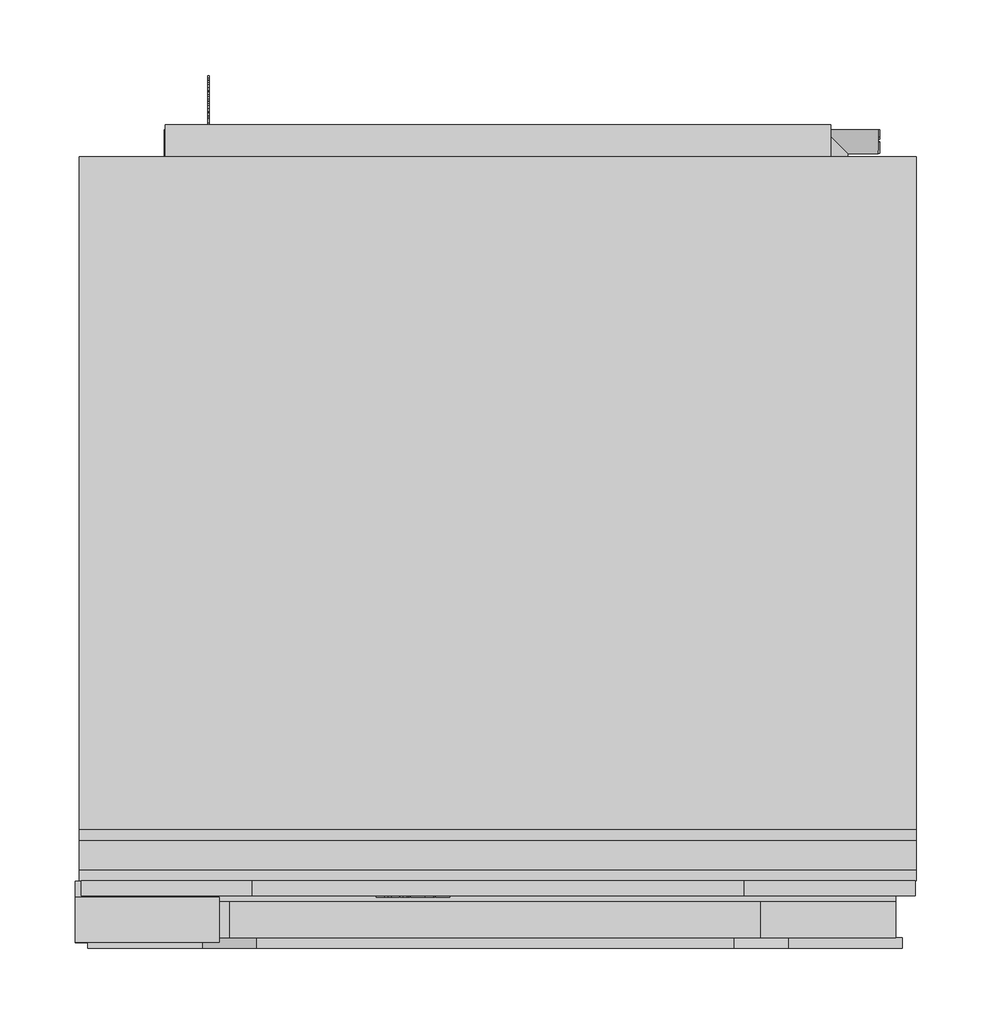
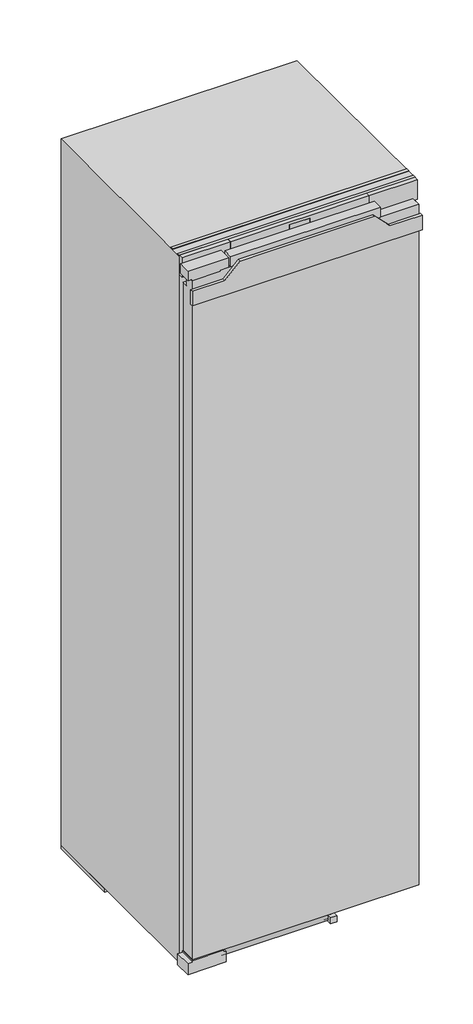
# Not in any storey: 1 proxy.
"""IFC4 building model written with IfcOpenShell, lengths in millimetres."""

import ifcopenshell
import ifcopenshell.guid

model = None  # the IFC model being written
_history = None  # IfcOwnerHistory: only IFC2X3 demands one
_inside = {}  # id of a spatial element -> (the spatial element, [elements in it])
_under = {}  # id of a project, library or spatial element -> (it, [spatial elements below it])
_declared = {}  # id of a project -> (the project, [libraries it declares])
_typed = {}  # id of a type object -> (the type object, [elements of that type])
_made_of = {}  # id of a material, layer set ... -> (it, [elements and type objects made of it])


def new_model(schema):
    """Start an empty IFC model of exactly this schema.

    Asked for "IFC4X3", IfcOpenShell would pick the latest addendum, in which some entities
    have other attributes; the version numbers below select the first issue.
    IFC2X3 requires an IfcOwnerHistory on every rooted entity: one is made here for all.
    """
    global model, _history
    if schema == "IFC4X3":
        model = ifcopenshell.file(schema_version=(4, 3, 0, 0))
    else:
        model = ifcopenshell.file(schema=schema)
    _inside.clear()
    _under.clear()
    _declared.clear()
    _typed.clear()
    _made_of.clear()
    _history = None
    if model.schema == "IFC2X3":
        org = make("IfcOrganization", Name="unknown")
        user = make(
            "IfcPersonAndOrganization",
            ThePerson=make("IfcPerson", FamilyName="unknown"),
            TheOrganization=org,
        )
        app = make(
            "IfcApplication",
            ApplicationDeveloper=org,
            Version="unknown",
            ApplicationFullName="unknown",
            ApplicationIdentifier="unknown",
        )
        _history = make(
            "IfcOwnerHistory",
            OwningUser=user,
            OwningApplication=app,
            ChangeAction="ADDED",
            CreationDate=0,
        )
    return model


def make(cls, **values):
    """One entity of the class cls with the attributes given. An attribute that is None is left unset."""
    return model.create_entity(
        cls, **{name: value for name, value in values.items() if value is not None}
    )


def rooted(cls, **values):
    """An entity with a GlobalId (a new one), such as an element, a storey or a relation."""
    return make(cls, GlobalId=ifcopenshell.guid.new(), OwnerHistory=_history, **values)


def si_unit(unit_type, name, prefix=None):
    """IfcSIUnit, for example si_unit("LENGTHUNIT", "METRE", prefix="MILLI")."""
    return make("IfcSIUnit", UnitType=unit_type, Prefix=prefix, Name=name)


def assignment(units):
    """IfcUnitAssignment: the units of a project."""
    return None if units is None else make("IfcUnitAssignment", Units=units)


def point(xyz):
    """IfcCartesianPoint."""
    return None if xyz is None else make("IfcCartesianPoint", Coordinates=xyz)


def direction(xyz):
    """IfcDirection."""
    return None if xyz is None else make("IfcDirection", DirectionRatios=xyz)


def frame(location, z_axis=None, x_axis=None):
    """IfcAxis2Placement3D, a coordinate frame: its origin and axes. An axis left out is left unset."""
    return make(
        "IfcAxis2Placement3D",
        Location=point(location),
        Axis=direction(z_axis),
        RefDirection=direction(x_axis),
    )


def frame_2d(location, x_axis=None):
    """IfcAxis2Placement2D, a coordinate frame in the plane: its origin and x axis."""
    return make(
        "IfcAxis2Placement2D", Location=point(location), RefDirection=direction(x_axis)
    )


def origin():
    """The frame at (0, 0, 0) with its axes left unset."""
    return frame((0.0, 0.0, 0.0))


def origin_with_axes():
    """The frame at (0, 0, 0) with the z axis (0, 0, 1) and the x axis (1, 0, 0) written out."""
    return frame((0.0, 0.0, 0.0), z_axis=(0.0, 0.0, 1.0), x_axis=(1.0, 0.0, 0.0))


def place(relative_to, where):
    """IfcLocalPlacement: puts the frame where relative to a parent placement (None: the world)."""
    return make(
        "IfcLocalPlacement", PlacementRelTo=relative_to, RelativePlacement=where
    )


def context(
    kind, dimensions, precision=None, world=None, true_north=None, identifier=None
):
    """IfcGeometricRepresentationContext, for example the 3D "Model" context."""
    return make(
        "IfcGeometricRepresentationContext",
        ContextIdentifier=identifier,
        ContextType=kind,
        CoordinateSpaceDimension=dimensions,
        Precision=precision,
        WorldCoordinateSystem=world,
        TrueNorth=true_north,
    )


def project(units=None, contexts=None):
    """IfcProject with its units and contexts."""
    return rooted(
        "IfcProject",
        Name="project",
        RepresentationContexts=contexts,
        UnitsInContext=assignment(units),
    )


def spatial(cls, under=None, at=None, **own):
    """A site, building, storey or space (cls), placed at a placement, below another one or the project."""
    s = rooted(cls, ObjectPlacement=at, **own)
    if under is not None:
        _under.setdefault(under.id(), (under, []))[1].append(s)
    return s


def polyline(points):
    """IfcPolyline through the points."""
    return make("IfcPolyline", Points=[point(p) for p in points])


def circle_curve(where, radius):
    """IfcCircle in the frame where."""
    return make("IfcCircle", Position=where, Radius=radius)


def ellipse_curve(where, semi_axis1, semi_axis2):
    """IfcEllipse in the frame where."""
    return make(
        "IfcEllipse", Position=where, SemiAxis1=semi_axis1, SemiAxis2=semi_axis2
    )


def trimmed(basis, trim1, trim2, sense, master):
    """IfcTrimmedCurve: the piece of a basis curve between two trims."""
    return make(
        "IfcTrimmedCurve",
        BasisCurve=basis,
        Trim1=trim1,
        Trim2=trim2,
        SenseAgreement=sense,
        MasterRepresentation=master,
    )


def segment(curve, same_sense, transition):
    """IfcCompositeCurveSegment."""
    return make(
        "IfcCompositeCurveSegment",
        Transition=transition,
        SameSense=same_sense,
        ParentCurve=curve,
    )


def composite_curve(segments, self_intersect=None):
    """IfcCompositeCurve: segments joined end to end."""
    return make("IfcCompositeCurve", Segments=segments, SelfIntersect=self_intersect)


def outline(outer, holes=None, kind="AREA"):
    """IfcArbitraryClosedProfileDef: a profile drawn as a closed curve; with holes, ...WithVoids."""
    if holes is None:
        return make("IfcArbitraryClosedProfileDef", ProfileType=kind, OuterCurve=outer)
    return make(
        "IfcArbitraryProfileDefWithVoids",
        ProfileType=kind,
        OuterCurve=outer,
        InnerCurves=holes,
    )


def extrude(swept, where, along, depth):
    """IfcExtrudedAreaSolid: the profile swept, set in the frame where, extruded along a direction by depth."""
    return make(
        "IfcExtrudedAreaSolid",
        SweptArea=swept,
        Position=where,
        ExtrudedDirection=direction(along),
        Depth=depth,
    )


def faces_of(points, faces, orient=None, outer=None):
    """IfcFace entities. A face is a list of loops; a loop is a list of indices into points, from 0.

    orient and outer hold one flag for each loop. By default every Orientation is true, the
    first loop of a face is its IfcFaceOuterBound and the others are IfcFaceBound.
    """
    made = []
    for i, loops in enumerate(faces):
        bounds = []
        for j, loop in enumerate(loops):
            is_outer = j == 0 if outer is None else outer[i][j]
            bounds.append(
                make(
                    "IfcFaceOuterBound" if is_outer else "IfcFaceBound",
                    Bound=make("IfcPolyLoop", Polygon=[points[k] for k in loop]),
                    Orientation=True if orient is None else orient[i][j],
                )
            )
        made.append(make("IfcFace", Bounds=bounds))
    return made


def faceted_brep(points, faces, orient=None, outer=None, voids=None):
    """IfcFacetedBrep: a solid bounded by flat faces; with voids (closed shells), ...WithVoids."""
    shared = [point(p) for p in points]
    hull = make("IfcClosedShell", CfsFaces=faces_of(shared, faces, orient, outer))
    if voids is None:
        return make("IfcFacetedBrep", Outer=hull)
    return make(
        "IfcFacetedBrepWithVoids",
        Outer=hull,
        Voids=[
            make(cls, CfsFaces=faces_of(shared, fs, o, b)) for cls, fs, o, b in voids
        ],
    )


def shape(context_of_items, identifier, shape_type, items):
    """IfcShapeRepresentation: the items that make up one representation, for example the "Body"."""
    return make(
        "IfcShapeRepresentation",
        ContextOfItems=context_of_items,
        RepresentationIdentifier=identifier,
        RepresentationType=shape_type,
        Items=items,
    )


def source(mapping_origin, context_of_items, identifier, shape_type, items):
    """IfcRepresentationMap: a shape defined once, which mapped items show again and again."""
    return make(
        "IfcRepresentationMap",
        MappingOrigin=mapping_origin,
        MappedRepresentation=shape(context_of_items, identifier, shape_type, items),
    )


def transform(
    local_origin,
    x_axis=None,
    y_axis=None,
    z_axis=None,
    scale=None,
    scale2=None,
    scale3=None,
    uniform=True,
):
    """IfcCartesianTransformationOperator3D, or its non-uniform kind. x_axis, y_axis, z_axis: its Axis1, 2, 3."""
    if uniform:
        return make(
            "IfcCartesianTransformationOperator3D",
            Axis1=direction(x_axis),
            Axis2=direction(y_axis),
            LocalOrigin=point(local_origin),
            Scale=scale,
            Axis3=direction(z_axis),
        )
    return make(
        "IfcCartesianTransformationOperator3DnonUniform",
        Axis1=direction(x_axis),
        Axis2=direction(y_axis),
        LocalOrigin=point(local_origin),
        Scale=scale,
        Axis3=direction(z_axis),
        Scale2=scale2,
        Scale3=scale3,
    )


def mapped(mapping_source, mapping_target):
    """IfcMappedItem: shows the shape of a source again, moved by a transform."""
    return make(
        "IfcMappedItem", MappingSource=mapping_source, MappingTarget=mapping_target
    )


def made_of(thing, what):
    """Note that an element or type object is made of a material, layer set ...; save() writes the relation."""
    if what is not None:
        _made_of.setdefault(what.id(), (what, []))[1].append(thing)
    return thing


def element(
    cls,
    number,
    at=None,
    inside=None,
    cuts=None,
    type_object=None,
    material=None,
    context=None,
    identifier="Body",
    shape_type=None,
    held_by="IfcProductDefinitionShape",
    body=None,
    shapes=None,
    **own,
):
    """One element of the class cls, such as IfcWall. Its Tag is "e" and its number.

    at: its placement. inside: the storey or other place that contains it. cuts: it is an
    opening in that element (IfcRelVoidsElement). A single representation is given by context,
    identifier, shape_type and body (its items); several are given by shapes. held_by: the class
    of the entity that holds the representations. save() writes the other relations.
    """
    e = rooted(cls, Tag="e%d" % number, ObjectPlacement=at, **own)
    if body is not None:
        shapes = [shape(context, identifier, shape_type, body)]
    if shapes is not None:
        e.Representation = make(held_by, Representations=shapes)
    if inside is not None:
        _inside.setdefault(inside.id(), (inside, []))[1].append(e)
    if cuts is not None:
        rooted(
            "IfcRelVoidsElement", RelatingBuildingElement=cuts, RelatedOpeningElement=e
        )
    if type_object is not None:
        _typed.setdefault(type_object.id(), (type_object, []))[1].append(e)
    return made_of(e, material)


def aggregate(whole, parts):
    """IfcRelAggregates: a whole, such as a stair, and the parts it consists of."""
    return rooted("IfcRelAggregates", RelatingObject=whole, RelatedObjects=parts)


def save(model, path):
    """Write the relations noted so far, then the file.

    IfcRelAggregates (storeys below a building ...), IfcRelContainedInSpatialStructure (elements
    in a storey), IfcRelDefinesByType, IfcRelAssociatesMaterial and IfcRelDeclares: one each for
    every whole, place, type object, material and project.
    """
    for whole, parts in _under.values():
        aggregate(whole, parts)
    for where, things in _inside.values():
        rooted(
            "IfcRelContainedInSpatialStructure",
            RelatedElements=things,
            RelatingStructure=where,
        )
    for kind, things in _typed.values():
        rooted("IfcRelDefinesByType", RelatedObjects=things, RelatingType=kind)
    for what, things in _made_of.values():
        rooted("IfcRelAssociatesMaterial", RelatedObjects=things, RelatingMaterial=what)
    for by, libraries in _declared.values():
        rooted("IfcRelDeclares", RelatingContext=by, RelatedDefinitions=libraries)
    model.write(path)


def plane_surface(at):
    """IfcPlane: the flat surface through the origin of the frame at, square to its z axis."""
    return make("IfcPlane", Position=at)


def cylinder_surface(at, radius):
    """IfcCylindricalSurface: all points at the distance radius from the z axis of the frame at."""
    return make("IfcCylindricalSurface", Position=at, Radius=radius)


def revolved_surface(curve, axis_point, axis_direction):
    """IfcSurfaceOfRevolution: the curve turned about the line through axis_point along axis_direction."""
    return make(
        "IfcSurfaceOfRevolution",
        SweptCurve=make("IfcArbitraryOpenProfileDef", ProfileType="CURVE", Curve=curve),
        AxisPosition=make("IfcAxis1Placement", Location=point(axis_point), Axis=direction(axis_direction)),
    )


def extruded_surface(curve, direction_of_extrusion, depth):
    """IfcSurfaceOfLinearExtrusion: the curve pushed along a direction by depth."""
    return make(
        "IfcSurfaceOfLinearExtrusion",
        SweptCurve=make("IfcArbitraryOpenProfileDef", ProfileType="CURVE", Curve=curve),
        ExtrudedDirection=direction(direction_of_extrusion),
        Depth=depth,
    )


def advanced_brep(points, edges, surfaces, faces):
    """IfcAdvancedBrep: a solid bounded by faces that lie on surfaces and meet in shared edges.

    An edge is (start, end): straight between two places in points (the first is 0);
    or (start, end, curve); or (start, end, curve, False) where it runs against its curve.
    A face is (place in surfaces, loops), or (place, loops, False) where it looks against
    its surface's normal. A loop lists edges by number (the first is 1), with a minus sign
    where the edge is run from its end to its start. The first loop is the outer one.
    """
    corners = [point(p) for p in points]
    vertices = [make("IfcVertexPoint", VertexGeometry=c) for c in corners]
    made = []
    for start, end, *more in edges:
        made.append(
            make(
                "IfcEdgeCurve",
                EdgeStart=vertices[start],
                EdgeEnd=vertices[end],
                EdgeGeometry=more[0] if more else make("IfcPolyline", Points=[corners[start], corners[end]]),
                SameSense=more[1] if len(more) > 1 else True,
            )
        )
    hull = []
    for where, loops, *sense in faces:
        bounds = []
        for j, loop in enumerate(loops):
            ring = [make("IfcOrientedEdge", EdgeElement=made[abs(k) - 1], Orientation=k > 0) for k in loop]
            bounds.append(
                make(
                    "IfcFaceOuterBound" if j == 0 else "IfcFaceBound",
                    Bound=make("IfcEdgeLoop", EdgeList=ring),
                    Orientation=True,
                )
            )
        hull.append(make("IfcAdvancedFace", Bounds=bounds, FaceSurface=surfaces[where], SameSense=sense[0] if sense else True))
    return make("IfcAdvancedBrep", Outer=make("IfcClosedShell", CfsFaces=hull))


def specialty_equipment_5714de7c(model_context):
    return source(origin(), model_context, "Body", "SolidModel", [
        advanced_brep(
        [(-37.4941578, 34.0, 1743.708), (-37.4941578, 34.0, 1744.516), (-32.1421578, 34.0, 1744.516), (-41.4541578, 34.0, 1744.516), (-39.2541578, 34.0, 1741.812), (-32.2781578, 34.0, 1743.708), (-34.6941578, 34.0, 1743.708), (-36.5981578, 34.0, 1742.812), (-37.4941578, 34.0, 1745.54), (-37.4941578, 34.0, 1746.412), (-36.1261578, 34.0, 1746.412), (-36.1261578, 34.0, 1745.54), (-37.4941578, 35.0, 1743.708), (-36.5981578, 35.0, 1742.812), (-34.6941578, 35.0, 1743.708), (-32.2781578, 35.0, 1743.708), (-39.2541578, 35.0, 1741.812), (-41.4541578, 35.0, 1744.516), (-32.1421578, 35.0, 1744.516), (-37.4941578, 35.0, 1744.516), (-37.4941578, 35.0, 1745.54), (-36.1261578, 35.0, 1745.54), (-36.1261578, 35.0, 1746.412), (-37.4941578, 35.0, 1746.412)],
        [
            (0, 1),
            (1, 2),
            (2, 3, ellipse_curve(frame((-36.7981578, 34.0, 1744.516), z_axis=(0.0, -1.0, 0.0), x_axis=(-1.0, 0.0, 0.0)), 4.656, 3.848)),
            (3, 4, circle_curve(frame((-38.3581141, 34.0, 1744.788), z_axis=(0.0, -1.0, 0.0), x_axis=(0.0, 0.0, -1.0)), 3.1079688)),
            (4, 5, circle_curve(frame((-36.8913642, 34.0, 1746.9), z_axis=(0.0, -1.0, 0.0), x_axis=(0.0, 0.0, -1.0)), 5.6098607)),
            (5, 6),
            (6, 7, circle_curve(frame((-36.207099, 34.0, 1744.452), z_axis=(0.0, 1.0, 0.0), x_axis=(0.0, 0.0, -1.0)), 1.6859795)),
            (7, 0, circle_curve(frame((-36.5981578, 34.0, 1743.708), z_axis=(0.0, 1.0, 0.0), x_axis=(0.0, 0.0, -1.0)), 0.896)),
            (8, 9),
            (9, 10, circle_curve(frame((-36.8101578, 34.0, 1746.412), z_axis=(0.0, 1.0, 0.0), x_axis=(0.0, 0.0, -1.0)), 0.684)),
            (10, 11),
            (11, 8),
            (12, 13, circle_curve(frame((-36.5981578, 35.0, 1743.708), z_axis=(0.0, -1.0, 0.0), x_axis=(0.0, 0.0, -1.0)), 0.896)),
            (13, 14, circle_curve(frame((-36.207099, 35.0, 1744.452), z_axis=(0.0, -1.0, 0.0), x_axis=(0.0, 0.0, -1.0)), 1.6859795)),
            (14, 15),
            (15, 16, circle_curve(frame((-36.8913642, 35.0, 1746.9), z_axis=(0.0, 1.0, 0.0), x_axis=(0.0, 0.0, -1.0)), 5.6098607)),
            (16, 17, circle_curve(frame((-38.3581141, 35.0, 1744.788), z_axis=(0.0, 1.0, 0.0), x_axis=(0.0, 0.0, -1.0)), 3.1079688)),
            (17, 18, ellipse_curve(frame((-36.7981578, 35.0, 1744.516), z_axis=(0.0, 1.0, 0.0), x_axis=(-1.0, 0.0, 0.0)), 4.656, 3.848)),
            (18, 19),
            (19, 12),
            (20, 21),
            (21, 22),
            (22, 23, circle_curve(frame((-36.8101578, 35.0, 1746.412), z_axis=(0.0, -1.0, 0.0), x_axis=(0.0, 0.0, -1.0)), 0.684)),
            (23, 20),
            (0, 12),
            (19, 1),
            (18, 2),
            (5, 15),
            (14, 6),
            (17, 3),
            (13, 7),
            (16, 4),
            (8, 20),
            (23, 9),
            (22, 10),
            (21, 11),
        ],
        [
            plane_surface(frame((-37.4941578, 34.0, 1744.516), z_axis=(0.0, -1.0, 0.0), x_axis=(0.0, 0.0, 1.0))),
            plane_surface(frame((-37.4941578, 35.0, 1744.516), z_axis=(0.0, 1.0, 0.0), x_axis=(0.0, 0.0, -1.0))),
            plane_surface(frame((-37.4941578, 34.0, 1743.708), z_axis=(1.0, 0.0, 0.0), x_axis=(0.0, 1.0, 0.0))),
            plane_surface(frame((-37.4941578, 34.0, 1744.516), z_axis=(0.0, 0.0, -1.0), x_axis=(0.0, 1.0, 0.0))),
            plane_surface(frame((-32.2781578, 34.0, 1743.708), z_axis=(0.0, 0.0, 1.0), x_axis=(0.0, 1.0, 0.0))),
            extruded_surface(trimmed(ellipse_curve(frame((-36.7981578, 36.0, 1744.516), z_axis=(0.0, -1.0, 0.0), x_axis=(-1.0, 0.0, 0.0)), 4.656, 3.848), [point((-32.1421578, 36.0, 1744.516))], [point((-41.4541578, 36.0, 1744.516))], True, "CARTESIAN"), (0.0, -1.0, 0.0), 1.0),
            revolved_surface(polyline([(-36.207099, 35.0, 1742.7660205), (-36.207099, 34.0, 1742.7660205)]), (-36.207099, 35.0, 1744.452), (0.0, 1.0, 0.0)),
            revolved_surface(polyline([(-36.5981578, 35.0, 1742.8120000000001), (-36.5981578, 34.0, 1742.8120000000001)]), (-36.5981578, 35.0, 1743.708), (0.0, 1.0, 0.0)),
            cylinder_surface(frame((-38.3581141, 35.0, 1744.788), z_axis=(0.0, -1.0, 0.0), x_axis=(0.0, 0.0, -1.0)), 3.1079688),
            cylinder_surface(frame((-36.8913642, 35.0, 1746.9), z_axis=(0.0, -1.0, 0.0), x_axis=(0.0, 0.0, -1.0)), 5.6098607),
            plane_surface(frame((-37.4941578, 34.0, 1745.54), z_axis=(1.0, 0.0, 0.0), x_axis=(0.0, 1.0, 0.0))),
            revolved_surface(polyline([(-36.8101578, 35.0, 1745.728), (-36.8101578, 34.0, 1745.728)]), (-36.8101578, 35.0, 1746.412), (0.0, 1.0, 0.0)),
            plane_surface(frame((-36.1261578, 34.0, 1746.412), z_axis=(-1.0, 0.0, 0.0), x_axis=(0.0, 1.0, 0.0))),
            plane_surface(frame((-36.1261578, 34.0, 1745.54), z_axis=(0.0, 0.0, 1.0), x_axis=(0.0, 1.0, 0.0))),
        ],
        [
            (0, [[1, 2, 3, 4, 5, 6, 7, 8], [9, 10, 11, 12]]),
            (1, [[13, 14, 15, 16, 17, 18, 19, 20], [21, 22, 23, 24]]),
            (2, [[-1, 25, -20, 26]]),
            (3, [[-2, -26, -19, 27]]),
            (4, [[-6, 28, -15, 29]]),
            (5, [[-3, -27, -18, 30]]),
            (6, [[-7, -29, -14, 31]]),
            (7, [[-8, -31, -13, -25]]),
            (8, [[-4, -30, -17, 32]]),
            (9, [[-5, -32, -16, -28]]),
            (10, [[-9, 33, -24, 34]]),
            (11, [[-10, -34, -23, 35]]),
            (12, [[-11, -35, -22, 36]]),
            (13, [[-12, -36, -21, -33]]),
        ],
    ),
        advanced_brep(
        [(-54.1901578, 34.0, 1743.708), (-54.1901578, 34.0, 1744.516), (-48.8381578, 34.0, 1744.516), (-58.1501578, 34.0, 1744.516), (-55.9501578, 34.0, 1741.812), (-48.9741578, 34.0, 1743.708), (-51.3901578, 34.0, 1743.708), (-53.2941578, 34.0, 1742.812), (-54.1901578, 34.0, 1745.54), (-54.1901578, 34.0, 1746.412), (-52.8221578, 34.0, 1746.412), (-52.8221578, 34.0, 1745.54), (-54.1901578, 35.0, 1743.708), (-53.2941578, 35.0, 1742.812), (-51.3901578, 35.0, 1743.708), (-48.9741578, 35.0, 1743.708), (-55.9501578, 35.0, 1741.812), (-58.1501578, 35.0, 1744.516), (-48.8381578, 35.0, 1744.516), (-54.1901578, 35.0, 1744.516), (-54.1901578, 35.0, 1745.54), (-52.8221578, 35.0, 1745.54), (-52.8221578, 35.0, 1746.412), (-54.1901578, 35.0, 1746.412)],
        [
            (0, 1),
            (1, 2),
            (2, 3, ellipse_curve(frame((-53.4941578, 34.0, 1744.516), z_axis=(0.0, -1.0, 0.0), x_axis=(-1.0, 0.0, 0.0)), 4.656, 3.848)),
            (3, 4, circle_curve(frame((-55.0541141, 34.0, 1744.788), z_axis=(0.0, -1.0, 0.0), x_axis=(0.0, 0.0, -1.0)), 3.1079688)),
            (4, 5, circle_curve(frame((-53.5873642, 34.0, 1746.9), z_axis=(0.0, -1.0, 0.0), x_axis=(0.0, 0.0, -1.0)), 5.6098607)),
            (5, 6),
            (6, 7, circle_curve(frame((-52.903099, 34.0, 1744.452), z_axis=(0.0, 1.0, 0.0), x_axis=(0.0, 0.0, -1.0)), 1.6859795)),
            (7, 0, circle_curve(frame((-53.2941578, 34.0, 1743.708), z_axis=(0.0, 1.0, 0.0), x_axis=(0.0, 0.0, -1.0)), 0.896)),
            (8, 9),
            (9, 10, circle_curve(frame((-53.5061578, 34.0, 1746.412), z_axis=(0.0, 1.0, 0.0), x_axis=(0.0, 0.0, -1.0)), 0.684)),
            (10, 11),
            (11, 8),
            (12, 13, circle_curve(frame((-53.2941578, 35.0, 1743.708), z_axis=(0.0, -1.0, 0.0), x_axis=(0.0, 0.0, -1.0)), 0.896)),
            (13, 14, circle_curve(frame((-52.903099, 35.0, 1744.452), z_axis=(0.0, -1.0, 0.0), x_axis=(0.0, 0.0, -1.0)), 1.6859795)),
            (14, 15),
            (15, 16, circle_curve(frame((-53.5873642, 35.0, 1746.9), z_axis=(0.0, 1.0, 0.0), x_axis=(0.0, 0.0, -1.0)), 5.6098607)),
            (16, 17, circle_curve(frame((-55.0541141, 35.0, 1744.788), z_axis=(0.0, 1.0, 0.0), x_axis=(0.0, 0.0, -1.0)), 3.1079688)),
            (17, 18, ellipse_curve(frame((-53.4941578, 35.0, 1744.516), z_axis=(0.0, 1.0, 0.0), x_axis=(-1.0, 0.0, 0.0)), 4.656, 3.848)),
            (18, 19),
            (19, 12),
            (20, 21),
            (21, 22),
            (22, 23, circle_curve(frame((-53.5061578, 35.0, 1746.412), z_axis=(0.0, -1.0, 0.0), x_axis=(0.0, 0.0, -1.0)), 0.684)),
            (23, 20),
            (0, 12),
            (19, 1),
            (18, 2),
            (5, 15),
            (14, 6),
            (17, 3),
            (13, 7),
            (16, 4),
            (8, 20),
            (23, 9),
            (22, 10),
            (21, 11),
        ],
        [
            plane_surface(frame((-54.1901578, 34.0, 1744.516), z_axis=(0.0, -1.0, 0.0), x_axis=(0.0, 0.0, 1.0))),
            plane_surface(frame((-54.1901578, 35.0, 1744.516), z_axis=(0.0, 1.0, 0.0), x_axis=(0.0, 0.0, -1.0))),
            plane_surface(frame((-54.1901578, 34.0, 1743.708), z_axis=(1.0, 0.0, 0.0), x_axis=(0.0, 1.0, 0.0))),
            plane_surface(frame((-54.1901578, 34.0, 1744.516), z_axis=(0.0, 0.0, -1.0), x_axis=(0.0, 1.0, 0.0))),
            plane_surface(frame((-48.9741578, 34.0, 1743.708), z_axis=(0.0, 0.0, 1.0), x_axis=(0.0, 1.0, 0.0))),
            extruded_surface(trimmed(ellipse_curve(frame((-53.4941578, 36.0, 1744.516), z_axis=(0.0, -1.0, 0.0), x_axis=(-1.0, 0.0, 0.0)), 4.656, 3.848), [point((-48.8381578, 36.0, 1744.516))], [point((-58.1501578, 36.0, 1744.516))], True, "CARTESIAN"), (0.0, -1.0, 0.0), 1.0),
            revolved_surface(polyline([(-52.903099, 35.0, 1742.7660205), (-52.903099, 34.0, 1742.7660205)]), (-52.903099, 35.0, 1744.452), (0.0, 1.0, 0.0)),
            revolved_surface(polyline([(-53.2941578, 35.0, 1742.8120000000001), (-53.2941578, 34.0, 1742.8120000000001)]), (-53.2941578, 35.0, 1743.708), (0.0, 1.0, 0.0)),
            cylinder_surface(frame((-55.0541141, 35.0, 1744.788), z_axis=(0.0, -1.0, 0.0), x_axis=(0.0, 0.0, -1.0)), 3.1079688),
            cylinder_surface(frame((-53.5873642, 35.0, 1746.9), z_axis=(0.0, -1.0, 0.0), x_axis=(0.0, 0.0, -1.0)), 5.6098607),
            plane_surface(frame((-54.1901578, 34.0, 1745.54), z_axis=(1.0, 0.0, 0.0), x_axis=(0.0, 1.0, 0.0))),
            revolved_surface(polyline([(-53.5061578, 35.0, 1745.728), (-53.5061578, 34.0, 1745.728)]), (-53.5061578, 35.0, 1746.412), (0.0, 1.0, 0.0)),
            plane_surface(frame((-52.8221578, 34.0, 1746.412), z_axis=(-1.0, 0.0, 0.0), x_axis=(0.0, 1.0, 0.0))),
            plane_surface(frame((-52.8221578, 34.0, 1745.54), z_axis=(0.0, 0.0, 1.0), x_axis=(0.0, 1.0, 0.0))),
        ],
        [
            (0, [[1, 2, 3, 4, 5, 6, 7, 8], [9, 10, 11, 12]]),
            (1, [[13, 14, 15, 16, 17, 18, 19, 20], [21, 22, 23, 24]]),
            (2, [[-1, 25, -20, 26]]),
            (3, [[-2, -26, -19, 27]]),
            (4, [[-6, 28, -15, 29]]),
            (5, [[-3, -27, -18, 30]]),
            (6, [[-7, -29, -14, 31]]),
            (7, [[-8, -31, -13, -25]]),
            (8, [[-4, -30, -17, 32]]),
            (9, [[-5, -32, -16, -28]]),
            (10, [[-9, 33, -24, 34]]),
            (11, [[-10, -34, -23, 35]]),
            (12, [[-11, -35, -22, 36]]),
            (13, [[-12, -36, -21, -33]]),
        ],
    ),
        extrude(outline(polyline([(1749.34, -62.9341578), (1748.044, -62.3261578), (1749.308, -59.6141578), (1750.604, -60.2141578), (1749.34, -62.9341578)])), frame((0.0, 34.0, 0.0), z_axis=(0.0, 1.0, 0.0), x_axis=(0.0, 0.0, 1.0)), (0.0, 0.0, 1.0), 1.0),
        extrude(outline(polyline([(1747.868, -64.9101578), (1746.436, -64.9101578), (1746.436, -63.9581578), (1743.156, -63.9581578), (1743.156, -64.9101578), (1741.812, -64.9101578), (1741.812, -58.5981578), (1743.156, -58.5981578), (1743.156, -59.5261578), (1747.868, -59.5261578), (1747.868, -64.9101578)])), frame((0.0, 34.0, 0.0), z_axis=(0.0, 1.0, 0.0), x_axis=(0.0, 0.0, 1.0)), (0.0, 0.0, 1.0), 1.0),
        extrude(outline(polyline([(1748.508, -48.3901578), (1748.508, -47.4301578), (1743.156, -47.4301578), (1743.156, -48.3901578), (1741.812, -48.3901578), (1741.812, -41.9021578), (1743.156, -41.9021578), (1743.156, -42.8861578), (1749.812, -42.8861578), (1749.812, -48.3901578), (1748.508, -48.3901578)])), frame((0.0, 34.0, 0.0), z_axis=(0.0, 1.0, 0.0), x_axis=(0.0, 0.0, 1.0)), (0.0, 0.0, 1.0), 1.0),
        extrude(outline(polyline([(1748.508, -80.8541578), (1748.508, -79.8861578), (1743.156, -79.8861578), (1743.156, -80.8541578), (1741.812, -80.8541578), (1741.812, -77.3341578), (1743.156, -77.3341578), (1743.156, -78.2941578), (1746.5591247, -78.2941578), (1741.812, -74.7181578), (1746.6272223, -71.1261578), (1743.156, -71.1261578), (1743.156, -72.1101578), (1741.812, -72.1101578), (1741.812, -65.7261578), (1743.156, -65.7261578), (1743.156, -66.7421578), (1748.508, -66.7421578), (1748.508, -65.7261578), (1749.812, -65.7261578), (1749.812, -70.5981578), (1746.812, -72.9341578), (1749.812, -75.2781578), (1749.812, -80.8541578), (1748.508, -80.8541578)])), frame((0.0, 34.0, 0.0), z_axis=(0.0, 1.0, 0.0), x_axis=(0.0, 0.0, 1.0)), (0.0, 0.0, 1.0), 1.0),
        faceted_brep([(163.6458422, 35.0, 1770.0), (-163.3541578, 35.0, 1770.0), (-163.3541578, 35.0, 1721.0), (163.6458422, 35.0, 1721.0), (24.6458422, 35.0, 1763.0), (24.6458422, 35.0, 1727.0), (-24.3541578, 35.0, 1727.0), (-24.3541578, 35.0, 1763.0), (163.6458422, 45.0, 1770.0), (163.6458422, 45.0, 1721.0), (-163.3541578, 45.0, 1721.0), (-163.3541578, 45.0, 1770.0), (24.6458422, 36.0, 1763.0), (-24.3541578, 36.0, 1763.0), (-24.3541578, 36.0, 1727.0), (24.6458422, 36.0, 1727.0)], [[[0, 1, 2, 3], [4, 5, 6, 7]], [[8, 9, 10, 11]], [[0, 3, 9, 8]], [[3, 2, 10, 9]], [[2, 1, 11, 10]], [[1, 0, 8, 11]], [[12, 13, 14, 15]], [[12, 15, 5, 4]], [[15, 14, 6, 5]], [[14, 13, 7, 6]], [[13, 12, 4, 7]]]),
        extrude(outline(polyline([(163.6458422, 45.0), (277.6458422, 45.0), (277.6458422, 35.0), (163.6458422, 35.0), (163.6458422, 45.0)])), frame((0.0, 0.0, 1721.0), z_axis=(0.0, 0.0, 1.0), x_axis=(1.0, 0.0, 0.0)), (0.0, 0.0, 1.0), 49.0),
        extrude(outline(polyline([(-277.3541578, 45.0), (-163.3541578, 45.0), (-163.3541578, 35.0), (-277.3541578, 35.0), (-277.3541578, 45.0)])), frame((0.0, 0.0, 1721.0), z_axis=(0.0, 0.0, 1.0), x_axis=(1.0, 0.0, 0.0)), (0.0, 0.0, 1.0), 49.0),
        extrude(outline(polyline([(-24.3541578, 36.0), (24.6458422, 36.0), (24.6458422, 35.0), (-24.3541578, 35.0), (-24.3541578, 36.0)])), frame((0.0, 0.0, 1727.0), z_axis=(0.0, 0.0, 1.0), x_axis=(1.0, 0.0, 0.0)), (0.0, 0.0, 1.0), 36.0),
        extrude(outline(polyline([(1669.8, 269.1194317), (1705.8, 269.1194317), (1705.8, 193.1194317), (1741.8, 157.1194317), (1741.8, -160.8805683), (1705.8, -196.8805683), (1705.8, -272.8805683), (1669.8, -272.8805683), (1669.8, 269.1194317)])), frame((0.0, 0.0, 0.0), z_axis=(0.0, 1.0, 0.0), x_axis=(0.0, 0.0, 1.0)), (0.0, 0.0, 1.0), 7.0),
        extrude(outline(polyline([(57.1194317, 42.0), (72.1194317, 42.0), (72.1194317, 8.0), (57.1194317, 8.0), (57.1194317, 42.0)])), frame((0.0, 0.0, 9.8), z_axis=(0.0, 0.0, 1.0), x_axis=(1.0, 0.0, 0.0)), (0.0, 0.0, 1.0), 15.0),
        extrude(outline(composite_curve([segment(trimmed(circle_curve(frame_2d((63.6194317, 25.0)), 6.5), [point((70.1194317, 25.0))], [point((57.1194317, 25.0))], False, "CARTESIAN"), True, "CONTINUOUS"), segment(trimmed(circle_curve(frame_2d((63.6194317, 25.0)), 6.5), [point((57.1194317, 25.0))], [point((70.1194317, 25.0))], False, "CARTESIAN"), True, "CONTINUOUS")], self_intersect=False)), frame((0.0, 0.0, 24.8), z_axis=(0.0, 0.0, 1.0), x_axis=(1.0, 0.0, 0.0)), (0.0, 0.0, 1.0), 11.0),
        extrude(outline(polyline([(174.6194317, 7.0), (-178.3805683, 7.0), (-178.3805683, 31.0), (174.6194317, 31.0), (174.6194317, 7.0)])), frame((0.0, 0.0, 1729.8), z_axis=(0.0, 0.0, 1.0), x_axis=(1.0, 0.0, 0.0)), (0.0, 0.0, 1.0), 25.0),
        extrude(outline(polyline([(7.0, 35.8), (7.0, 1729.8), (31.0, 1729.8), (31.0, 1699.8), (45.0, 1699.8), (45.0, 35.8), (7.0, 35.8)])), frame((-268.3805683, 0.0, 0.0), z_axis=(1.0, 0.0, 0.0), x_axis=(0.0, 1.0, 0.0)), (0.0, 0.0, 1.0), 533.0),
        extrude(outline(polyline([(35.8, -197.3805683), (35.8, -270.3805683), (31.8, -270.3805683), (31.8, -281.3805683), (4.8, -281.3805683), (4.8, -191.3805683), (31.8, -191.3805683), (31.8, -197.3805683), (35.8, -197.3805683)])), frame((0.0, 4.0, 0.0), z_axis=(0.0, 1.0, 0.0), x_axis=(0.0, 0.0, 1.0)), (0.0, 0.0, 1.0), 41.0),
        extrude(outline(polyline([(1756.8, -281.3805683), (1732.8, -281.3805683), (1732.8, -271.3805683), (1729.8, -271.3805683), (1729.8, -205.3805683), (1732.8, -205.3805683), (1732.8, -185.3805683), (1756.8, -185.3805683), (1756.8, -281.3805683)])), frame((0.0, 4.0, 0.0), z_axis=(0.0, 1.0, 0.0), x_axis=(0.0, 0.0, 1.0)), (0.0, 0.0, 1.0), 30.0),
        extrude(outline(composite_curve([segment(trimmed(circle_curve(frame_2d((25.0, 18.8)), 6.0), [point((25.0, 24.8))], [point((25.0, 12.8))], False, "CARTESIAN"), True, "CONTINUOUS"), segment(trimmed(circle_curve(frame_2d((25.0, 18.8)), 6.0), [point((25.0, 12.8))], [point((25.0, 24.8))], False, "CARTESIAN"), True, "CONTINUOUS")], self_intersect=False)), frame((41.1194317, 0.0, 0.0), z_axis=(1.0, 0.0, 0.0), x_axis=(0.0, 1.0, 0.0)), (0.0, 0.0, 1.0), 16.0),
        extrude(outline(composite_curve([segment(trimmed(circle_curve(frame_2d((25.0, 18.8)), 9.0), [point((25.0, 27.8))], [point((25.0, 9.8))], False, "CARTESIAN"), True, "CONTINUOUS"), segment(trimmed(circle_curve(frame_2d((25.0, 18.8)), 9.0), [point((25.0, 9.8))], [point((25.0, 27.8))], False, "CARTESIAN"), True, "CONTINUOUS")], self_intersect=False)), frame((-191.3805683, 0.0, 0.0), z_axis=(1.0, 0.0, 0.0), x_axis=(0.0, 1.0, 0.0)), (0.0, 0.0, 1.0), 248.5),
        extrude(outline(polyline([(208.5, 487.0), (208.5, 309.0), (-208.5, 309.0), (-208.5, 487.0), (208.5, 487.0)])), frame((0.0, 0.0, 80.0), z_axis=(0.0, 0.0, 1.0), x_axis=(1.0, 0.0, 0.0)), (0.0, 0.0, 1.0), 217.0),
        extrude(outline(polyline([(23.0, -221.5), (23.0, 221.5), (131.0534782, 221.5), (131.0534782, 212.5555072), (151.6704825, 212.5555072), (151.6704825, 221.5), (1712.0, 221.5), (1712.0, -221.5), (62.0, -221.5), (62.0, -180.6240332), (39.0801416, -180.6240332), (39.0801416, -221.5), (23.0, -221.5)])), frame((0.0, 527.0, 0.0), z_axis=(0.0, 1.0, 0.0), x_axis=(0.0, 0.0, 1.0)), (0.0, 0.0, 1.0), 21.28),
        extrude(outline(polyline([(208.5, 87.0), (-208.5, 87.0), (-208.5, 487.0), (208.5, 487.0), (208.5, 87.0)])), frame((0.0, 0.0, 1587.0), z_axis=(0.0, 0.0, 1.0), x_axis=(1.0, 0.0, 0.0)), (0.0, 0.0, 1.0), 100.0),
        faceted_brep([(278.5, 527.0, 1768.0), (-278.5, 527.0, 1768.0), (-278.5, 45.0, 1768.0), (278.5, 45.0, 1768.0), (278.5, 527.0, 9.0), (278.5, 45.0, 9.0), (-278.5, 45.0, 9.0), (-278.5, 527.0, 9.0), (-208.5, 45.0, 1687.0), (208.5, 45.0, 1687.0), (208.5, 45.0, 80.0), (-208.5, 45.0, 80.0), (208.5, 487.0, 1687.0), (-208.5, 487.0, 1687.0), (-208.5, 487.0, 80.0), (208.5, 487.0, 80.0)], [[[0, 1, 2, 3]], [[4, 5, 6, 7]], [[1, 0, 4, 7]], [[2, 1, 7, 6]], [[3, 2, 6, 5], [8, 9, 10, 11]], [[0, 3, 5, 4]], [[12, 13, 14, 15]], [[13, 12, 9, 8]], [[14, 13, 8, 11]], [[15, 14, 11, 10]], [[12, 15, 10, 9]]]),
        extrude(outline(polyline([(278.5, 52.0), (278.5, 45.0), (-278.5, 45.0), (-278.5, 52.0), (278.5, 52.0)])), frame((0.0, 0.0, 1768.0), z_axis=(0.0, 0.0, 1.0), x_axis=(1.0, 0.0, 0.0)), (0.0, 0.0, 1.0), 2.0),
        extrude(outline(polyline([(278.5, 79.0), (278.5, 72.0), (-278.5, 72.0), (-278.5, 79.0), (278.5, 79.0)])), frame((0.0, 0.0, 1768.0), z_axis=(0.0, 0.0, 1.0), x_axis=(1.0, 0.0, 0.0)), (0.0, 0.0, 1.0), 2.0),
        extrude(outline(polyline([(529.6227397, 135.8394627), (529.6227397, 145.8850937), (536.843037, 145.8850937), (536.843037, 144.6293899), (530.8784436, 144.6293899), (530.8784436, 141.6470932), (536.529111, 141.6470932), (536.529111, 140.3913893), (530.8784436, 140.3913893), (530.8784436, 137.0951666), (537.0, 137.0951666), (537.0, 135.8394627), (529.6227397, 135.8394627)])), frame((253.2418947, 0.0, 0.0), z_axis=(1.0, 0.0, 0.0), x_axis=(0.0, 1.0, 0.0)), (0.0, 0.0, 1.0), 1.0),
        extrude(outline(polyline([(538.8835558, 135.8394627), (538.8835558, 145.8850937), (540.1392597, 145.8850937), (540.1392597, 137.0951666), (545.1620752, 137.0951666), (545.1620752, 135.8394627), (538.8835558, 135.8394627)])), frame((253.2418947, 0.0, 0.0), z_axis=(1.0, 0.0, 0.0), x_axis=(0.0, 1.0, 0.0)), (0.0, 0.0, 1.0), 1.0),
        advanced_brep(
        [(232.9638051, 527.0, 140.8394627), (217.0361949, 527.0, 140.8394627), (232.9638051, 529.0361949, 140.8394627), (217.0361949, 544.9638051, 140.8394627), (253.2418947, 529.0361949, 140.8394627), (253.2418947, 544.9638051, 140.8394627)],
        [
            (0, 1, circle_curve(frame((225.0, 527.0, 140.8394627), z_axis=(0.0, -1.0, 0.0), x_axis=(-1.0, 0.0, 0.0)), 7.9638051)),
            (1, 0, circle_curve(frame((225.0, 527.0, 140.8394627), z_axis=(0.0, -1.0, 0.0), x_axis=(-1.0, 0.0, 0.0)), 7.9638051)),
            (0, 2),
            (2, 3, ellipse_curve(frame((225.0, 537.0, 140.8394627), z_axis=(-0.70710678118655, -0.707106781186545, 0.0), x_axis=(0.707106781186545, -0.7071067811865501, 0.0)), 11.2625212, 7.9638051)),
            (3, 1),
            (3, 2, ellipse_curve(frame((225.0, 537.0, 140.8394627), z_axis=(-0.70710678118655, -0.707106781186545, 0.0), x_axis=(0.707106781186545, -0.7071067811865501, 0.0)), 11.2625212, 7.9638051)),
            (4, 5, circle_curve(frame((253.2418947, 537.0, 140.8394627), z_axis=(1.0, 0.0, 0.0), x_axis=(0.0, 1.0, 0.0)), 7.9638051)),
            (5, 4, circle_curve(frame((253.2418947, 537.0, 140.8394627), z_axis=(1.0, 0.0, 0.0), x_axis=(0.0, 1.0, 0.0)), 7.9638051)),
            (2, 4),
            (5, 3),
        ],
        [
            plane_surface(frame((225.0, 527.0, 2.0), z_axis=(0.0, -1.0, 0.0), x_axis=(0.0, 0.0, 1.0))),
            cylinder_surface(frame((225.0, 527.0, 140.8394627), z_axis=(0.0, -1.0, 0.0), x_axis=(-1.0, 0.0, 0.0)), 7.9638051),
            plane_surface(frame((253.2418947, 537.0, 2.0), z_axis=(1.0, 0.0, 0.0), x_axis=(0.0, 0.0, 1.0))),
            cylinder_surface(frame((225.0, 537.0, 140.8394627), z_axis=(-1.0, 0.0, 0.0), x_axis=(0.0, 1.0, 0.0)), 7.9638051),
        ],
        [
            (0, [[1, 2]]),
            (1, [[-1, 3, 4, 5]]),
            (1, [[-2, -5, 6, -3]]),
            (2, [[7, 8]]),
            (3, [[-4, 9, -8, 10]]),
            (3, [[-6, -10, -7, -9]]),
        ],
    ),
        extrude(outline(composite_curve([segment(trimmed(circle_curve(frame_2d((-226.5, 64.6852762)), 11.0852762), [point((-237.5852762, 64.6852762))], [point((-215.4147238, 64.6852762))], False, "CARTESIAN"), True, "CONTINUOUS"), segment(trimmed(circle_curve(frame_2d((-226.5, 64.6852762)), 11.0852762), [point((-215.4147238, 64.6852762))], [point((-237.5852762, 64.6852762))], False, "CARTESIAN"), True, "CONTINUOUS")], self_intersect=False)), origin_with_axes(), (0.0, 0.0, 1.0), 9.0),
        extrude(outline(composite_curve([segment(trimmed(circle_curve(frame_2d((226.5, 64.6852762)), 11.0852762), [point((215.4147238, 64.6852762))], [point((237.5852762, 64.6852762))], False, "CARTESIAN"), True, "CONTINUOUS"), segment(trimmed(circle_curve(frame_2d((226.5, 64.6852762)), 11.0852762), [point((237.5852762, 64.6852762))], [point((215.4147238, 64.6852762))], False, "CARTESIAN"), True, "CONTINUOUS")], self_intersect=False)), origin_with_axes(), (0.0, 0.0, 1.0), 9.0),
        extrude(outline(polyline([(-175.9047649, 94.122951), (-193.5137281, 345.9428573), (-168.5746269, 347.6867691), (-150.9656637, 95.8668628), (-175.9047649, 94.122951)])), frame((0.0, 0.0, 2.0), z_axis=(0.0, 0.0, 1.0), x_axis=(1.0, 0.0, 0.0)), (0.0, 0.0, 1.0), 7.0),
        extrude(outline(polyline([(175.9047649, 94.122951), (150.9656637, 95.8668628), (168.5777725, 347.7317536), (193.5168738, 345.9878417), (175.9047649, 94.122951)])), frame((0.0, 0.0, 2.0), z_axis=(0.0, 0.0, 1.0), x_axis=(1.0, 0.0, 0.0)), (0.0, 0.0, 1.0), 7.0),
        extrude(outline(polyline([(278.5, 347.71), (-278.5, 347.71), (-278.5, 527.0), (278.5, 527.0), (278.5, 347.71)])), origin_with_axes(), (0.0, 0.0, 1.0), 9.0),
        extrude(outline(polyline([(527.3594772, 46.0713582), (527.3594772, 56.1169892), (528.6151811, 56.1169892), (528.6151811, 51.1996332), (533.765529, 56.1169892), (535.5215524, 56.1169892), (531.1977127, 51.9869007), (535.6785154, 46.0713582), (534.1432212, 46.0713582), (530.3074383, 51.1383195), (528.6151811, 49.5245439), (528.6151811, 46.0713582), (527.3594772, 46.0713582)])), frame((-192.9919174, 0.0, 0.0), z_axis=(1.0, 0.0, 0.0), x_axis=(0.0, 1.0, 0.0)), (0.0, 0.0, 1.0), 1.0),
        extrude(outline(polyline([(538.41801, 46.0713582), (535.6785154, 56.1169892), (536.97346, 56.1169892), (538.5627102, 49.5147337), (539.0532196, 47.4766674), (539.5780646, 49.2792892), (541.5695324, 56.1169892), (543.4359204, 56.1169892), (544.8829229, 51.1603925), (545.9595909, 47.4766674), (546.4353849, 49.4558725), (548.0393504, 56.1169892), (549.3342951, 56.1169892), (546.5923479, 46.0713582), (545.2508049, 46.0713582), (542.8424041, 53.8214056), (542.5064052, 54.9029786), (542.1287131, 53.6006764), (539.9336838, 46.0713582), (538.41801, 46.0713582)])), frame((-192.9919174, 0.0, 0.0), z_axis=(1.0, 0.0, 0.0), x_axis=(0.0, 1.0, 0.0)), (0.0, 0.0, 1.0), 1.0),
        extrude(outline(polyline([(549.491258, 46.0713582), (552.3165918, 56.1169892), (553.4496683, 56.1169892), (550.6243346, 46.0713582), (549.491258, 46.0713582)])), frame((-192.9919174, 0.0, 0.0), z_axis=(1.0, 0.0, 0.0), x_axis=(0.0, 1.0, 0.0)), (0.0, 0.0, 1.0), 1.0),
        extrude(outline(polyline([(556.3117902, 46.0713582), (553.5722956, 56.1169892), (554.8672403, 56.1169892), (556.4564905, 49.5147337), (556.9469998, 47.4766674), (557.4718448, 49.2792892), (559.4633127, 56.1169892), (561.3297007, 56.1169892), (562.7767032, 51.1603925), (563.8533711, 47.4766674), (564.3291652, 49.4558725), (565.9331307, 56.1169892), (567.2280753, 56.1169892), (564.4861282, 46.0713582), (563.1445852, 46.0713582), (560.7361844, 53.8214056), (560.4001855, 54.9029786), (560.0224933, 53.6006764), (557.8274641, 46.0713582), (556.3117902, 46.0713582)])), frame((-192.9919174, 0.0, 0.0), z_axis=(1.0, 0.0, 0.0), x_axis=(0.0, 1.0, 0.0)), (0.0, 0.0, 1.0), 1.0),
        extrude(outline(polyline([(570.2814959, 46.0713582), (567.5420013, 56.1169892), (568.8369459, 56.1169892), (570.4261961, 49.5147337), (570.9167054, 47.4766674), (571.4415504, 49.2792892), (573.4330183, 56.1169892), (575.2994063, 56.1169892), (576.7464088, 51.1603925), (577.8230768, 47.4766674), (578.2988708, 49.4558725), (579.9028363, 56.1169892), (581.1977809, 56.1169892), (578.4558338, 46.0713582), (577.1142908, 46.0713582), (574.70589, 53.8214056), (574.3698911, 54.9029786), (573.9921989, 53.6006764), (571.7971697, 46.0713582), (570.2814959, 46.0713582)])), frame((-192.9919174, 0.0, 0.0), z_axis=(1.0, 0.0, 0.0), x_axis=(0.0, 1.0, 0.0)), (0.0, 0.0, 1.0), 1.0),
        advanced_brep(
        [(-205.9871753, 527.0, 51.0713582), (-222.004742, 527.0, 51.0713582), (-222.004742, 545.0087834, 51.0713582), (-205.9871753, 528.9912166, 51.0713582), (-192.9919174, 528.9912166, 51.0713582), (-192.9919174, 545.0087834, 51.0713582)],
        [
            (0, 1, circle_curve(frame((-213.9959587, 527.0, 51.0713582), z_axis=(0.0, -1.0, 0.0), x_axis=(-1.0, 0.0, 0.0)), 8.0087834)),
            (1, 0, circle_curve(frame((-213.9959587, 527.0, 51.0713582), z_axis=(0.0, -1.0, 0.0), x_axis=(-1.0, 0.0, 0.0)), 8.0087834)),
            (1, 2),
            (2, 3, ellipse_curve(frame((-213.9959587, 537.0, 51.0713582), z_axis=(-0.7071067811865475, -0.7071067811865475, 0.0), x_axis=(0.7071067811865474, -0.7071067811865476, 0.0)), 11.3261301, 8.0087834)),
            (3, 0),
            (3, 2, ellipse_curve(frame((-213.9959587, 537.0, 51.0713582), z_axis=(-0.7071067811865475, -0.7071067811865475, 0.0), x_axis=(0.7071067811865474, -0.7071067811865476, 0.0)), 11.3261301, 8.0087834)),
            (4, 5, circle_curve(frame((-192.9919174, 537.0, 51.0713582), z_axis=(1.0, 0.0, 0.0), x_axis=(0.0, 1.0, 0.0)), 8.0087834)),
            (5, 4, circle_curve(frame((-192.9919174, 537.0, 51.0713582), z_axis=(1.0, 0.0, 0.0), x_axis=(0.0, 1.0, 0.0)), 8.0087834)),
            (2, 5),
            (4, 3),
        ],
        [
            plane_surface(frame((-213.9959587, 527.0, 2.0), z_axis=(0.0, -1.0, 0.0), x_axis=(0.0, 0.0, 1.0))),
            cylinder_surface(frame((-213.9959587, 527.0, 51.0713582), z_axis=(0.0, -1.0, 0.0), x_axis=(-1.0, 0.0, 0.0)), 8.0087834),
            plane_surface(frame((-192.9919174, 537.0, 2.0), z_axis=(1.0, 0.0, 0.0), x_axis=(0.0, 0.0, 1.0))),
            cylinder_surface(frame((-213.9959587, 537.0, 51.0713582), z_axis=(-1.0, 0.0, 0.0), x_axis=(0.0, 1.0, 0.0)), 8.0087834),
        ],
        [
            (0, [[1, 2]]),
            (1, [[-2, 3, 4, 5]]),
            (1, [[-1, -5, 6, -3]]),
            (2, [[7, 8]]),
            (3, [[-4, 9, -7, 10]]),
            (3, [[-6, -10, -8, -9]]),
        ],
    ),
        extrude(outline(polyline([(208.5, 45.0), (-208.5, 45.0), (-208.5, 487.0), (208.5, 487.0), (208.5, 45.0)])), frame((0.0, 0.0, 467.0), z_axis=(0.0, 0.0, 1.0), x_axis=(1.0, 0.0, 0.0)), (0.0, 0.0, 1.0), 52.0),
    ])


model = new_model("IFC4")

# Units and contexts
model_context = context("Model", 3, world=origin())
ifc_project = project(units=[si_unit("LENGTHUNIT", "METRE", prefix="MILLI")], contexts=[model_context])

# Site, building
site = spatial("IfcSite", under=ifc_project)
building = spatial("IfcBuilding", under=site)

# Proxy
placement = place(None, origin())
specialty_equipment_shape = specialty_equipment_5714de7c(model_context)
element("IfcBuildingElementProxy", 1, Name="12304010_J_FNS7794E : 37779400_J_12304010_FNS7794E", ObjectType="12304010_J_FNS7794E : 37779400_J_12304010_FNS7794E", at=placement, inside=building, context=model_context, shape_type="MappedRepresentation", body=[
    mapped(specialty_equipment_shape, transform((0.0, 0.0, 0.0), x_axis=(1.0, 0.0, 0.0), y_axis=(0.0, 1.0, 0.0), z_axis=(0.0, 0.0, 1.0))),
])

save(model, "model.ifc")
